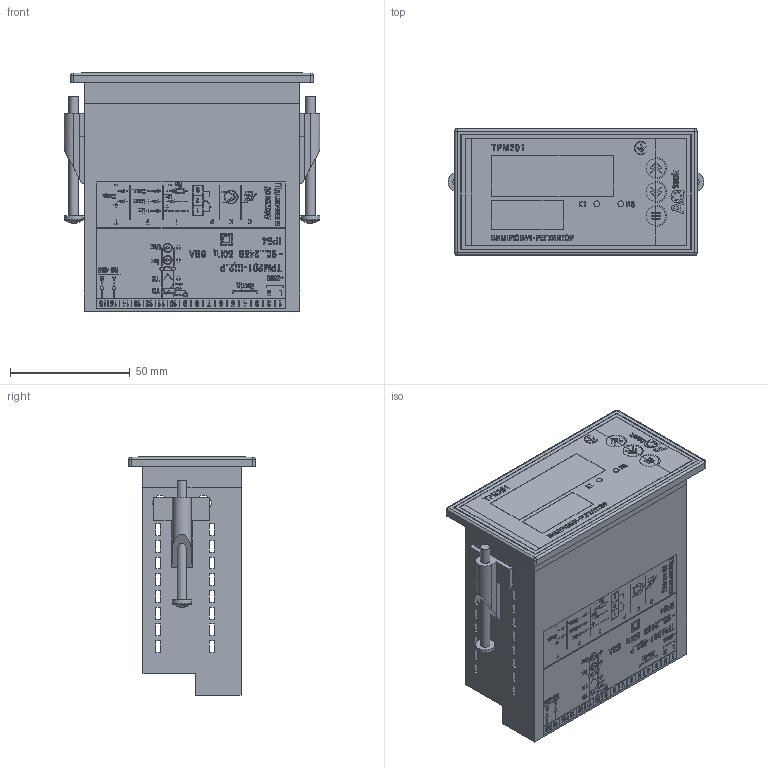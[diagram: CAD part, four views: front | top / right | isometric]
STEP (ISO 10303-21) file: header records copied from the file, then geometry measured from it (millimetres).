
FILE_DESCRIPTION (( 'STEP AP214' ), '1' );
FILE_NAME ('ﾒﾐﾌ201-ﾙ2.ﾐ [U03].STEP', '2025-02-27T10:08:51', ( '' ), ( '' ), 'SwSTEP 2.0', 'SolidWorks 2019', '' );
FILE_SCHEMA (( 'AUTOMOTIVE_DESIGN' ));
Length unit declared in the file: millimetre
Products named in the file (9): M4 x 0.7 x 40 Type I Cross Recessed PHMS; óù³ëüíþâà÷ (Ù2); BoardsPCBﾒﾐﾌ500_ﾙ2; Êîðïóñ ÒÐÌ201-Ù2.Ð [U03]; AQ_TRM201_002F01M; Êð³ïëåííÿ ï³ä âèíò Ì4; 2EDGKR-5.08-16; 2EDGKR-5.08-1p; ﾒﾐﾌ201-ﾙ2.ﾐ [U03]
Assembly tree (25 placements, depth 3):
  ﾒﾐﾌ201-ﾙ2.ﾐ [U03]
    2EDGKR-5.08-16
      2EDGKR-5.08-1p  x16
    óù³ëüíþâà÷ (Ù2)
    Êîðïóñ ÒÐÌ201-Ù2.Ð [U03]
    Êð³ïëåííÿ ï³ä âèíò Ì4  x2
    M4 x 0.7 x 40 Type I Cross Recessed PHMS  x2
    AQ_TRM201_002F01M
    BoardsPCBﾒﾐﾌ500_ﾙ2
Bounding box: 107 x 53 x 99.63 mm (x, y, z)
Volume: 93970.8 mm3; surface area: 128302.2 mm2
Topology: 264 solids, 264 shells, 5082 faces, 13461 edges, 8926 vertices
Faces by surface type: plane 3599, bspline 1201, cylinder 274, sphere 6, torus 2
Full cylindrical faces by diameter (mm): 1.274 x1, 2.5 x4, 3.268 x2, 4 x2, 8 x5
Entity records: 181579 total; most frequent: CARTESIAN_POINT 39419, ORIENTED_EDGE 23156, DIRECTION 15749, EDGE_CURVE 11578, LINE 8935, VECTOR 8935, VERTEX_POINT 7717, EDGE_LOOP 4883
